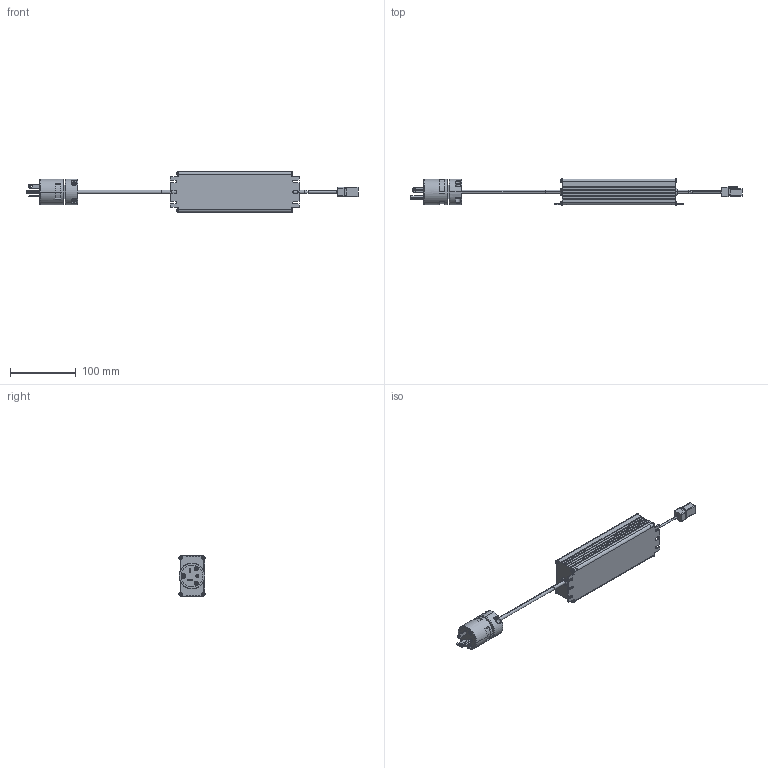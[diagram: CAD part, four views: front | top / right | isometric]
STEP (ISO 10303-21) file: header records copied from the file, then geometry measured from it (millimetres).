
FILE_DESCRIPTION (( 'STEP AP203' ), '1' );
FILE_NAME ('DCP-5-DP_01.STEP', '2017-04-13T19:31:03', ( '' ), ( '' ), 'SwSTEP 2.0', 'SolidWorks 2016', '' );
FILE_SCHEMA (( 'CONFIG_CONTROL_DESIGN' ));
Length unit declared in the file: inch
Products named in the file (1): DCP-5-DP_01
Bounding box: 503.65 x 39.6 x 61.5 mm (x, y, z)
Volume: 471330 mm3; surface area: 69566.1 mm2
Topology: 23 solids, 23 shells, 983 faces, 2424 edges, 1524 vertices
Faces by surface type: plane 433, cylinder 285, cone 192, torus 40, sphere 26, bspline 7
Entity records: 30367 total; most frequent: CARTESIAN_POINT 6247, DIRECTION 5449, ORIENTED_EDGE 4816, EDGE_CURVE 2408, AXIS2_PLACEMENT_3D 2121, VERTEX_POINT 1524, LINE 1207, VECTOR 1207
